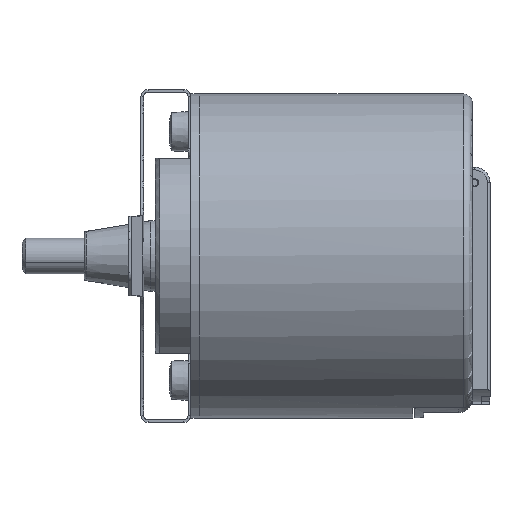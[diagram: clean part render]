
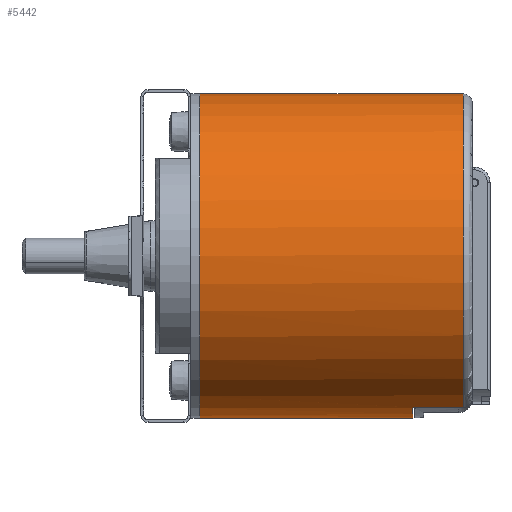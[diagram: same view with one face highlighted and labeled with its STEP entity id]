
A CAD part, front view. The second image highlights one B-rep face of the part: STEP entity #5442.
In plain terms, the highlighted cylindrical face has radius 18.25 mm (diameter 36.5 mm), a partial arc.
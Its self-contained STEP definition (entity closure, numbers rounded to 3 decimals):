
#156 = DIRECTION ( 'NONE',  ( 0., 0., 1. ) ) ;
#360 = ORIENTED_EDGE ( 'NONE', *, *, #13183, .T. ) ;
#394 = CARTESIAN_POINT ( 'NONE',  ( 5., 0., 18.25 ) ) ;
#913 = LINE ( 'NONE', #16848, #4344 ) ;
#1022 = CARTESIAN_POINT ( 'NONE',  ( 5., 0., -18.25 ) ) ;
#1177 = CIRCLE ( 'NONE', #16262, 18.25 ) ;
#1591 = CARTESIAN_POINT ( 'NONE',  ( 29.139, -6.465, -17.067 ) ) ;
#2620 = VERTEX_POINT ( 'NONE', #14252 ) ;
#3161 = EDGE_LOOP ( 'NONE', ( #11395, #16537, #360, #3196, #5351, #3200, #13406 ) ) ;
#3196 = ORIENTED_EDGE ( 'NONE', *, *, #8750, .F. ) ;
#3200 = ORIENTED_EDGE ( 'NONE', *, *, #10170, .T. ) ;
#3255 = AXIS2_PLACEMENT_3D ( 'NONE', #17208, #8616, #15842 ) ;
#3583 = CARTESIAN_POINT ( 'NONE',  ( 34.7, -6.5, -17.053 ) ) ;
#4038 = DIRECTION ( 'NONE',  ( -1., 0., 0. ) ) ;
#4344 = VECTOR ( 'NONE', #4038, 1000. ) ;
#4386 = LINE ( 'NONE', #6911, #18483 ) ;
#4609 = EDGE_CURVE ( 'NONE', #12246, #15680, #7430, .T. ) ;
#4826 = LINE ( 'NONE', #9919, #5689 ) ;
#5351 = ORIENTED_EDGE ( 'NONE', *, *, #8922, .T. ) ;
#5442 = ADVANCED_FACE ( 'NONE', ( #9471 ), #14589, .T. ) ;
#5689 = VECTOR ( 'NONE', #11376, 1000. ) ;
#5701 = AXIS2_PLACEMENT_3D ( 'NONE', #10483, #10419, #8997 ) ;
#6327 = CARTESIAN_POINT ( 'NONE',  ( 29.3, -6.5, -17.053 ) ) ;
#6545 = VERTEX_POINT ( 'NONE', #394 ) ;
#6750 = EDGE_CURVE ( 'NONE', #15680, #9646, #913, .T. ) ;
#6911 = CARTESIAN_POINT ( 'NONE',  ( 5., 0., 18.25 ) ) ;
#7430 = CIRCLE ( 'NONE', #7488, 18.25 ) ;
#7488 = AXIS2_PLACEMENT_3D ( 'NONE', #8795, #18577, #156 ) ;
#8474 = CARTESIAN_POINT ( 'NONE',  ( 34.7, 0., 18.25 ) ) ;
#8616 = DIRECTION ( 'NONE',  ( -1., 0., 0. ) ) ;
#8750 = EDGE_CURVE ( 'NONE', #11994, #2620, #4826, .T. ) ;
#8795 = CARTESIAN_POINT ( 'NONE',  ( 29., 0., 0. ) ) ;
#8922 = EDGE_CURVE ( 'NONE', #11994, #11175, #1177, .T. ) ;
#8988 = CARTESIAN_POINT ( 'NONE',  ( 34.7, 0., 0. ) ) ;
#8997 = DIRECTION ( 'NONE',  ( 0., 0., 1. ) ) ;
#9471 = FACE_OUTER_BOUND ( 'NONE', #3161, .T. ) ;
#9646 = VERTEX_POINT ( 'NONE', #1022 ) ;
#9919 = CARTESIAN_POINT ( 'NONE',  ( 5., -6.5, -17.053 ) ) ;
#10170 = EDGE_CURVE ( 'NONE', #11175, #6545, #4386, .T. ) ;
#10419 = DIRECTION ( 'NONE',  ( -1., 0., 0. ) ) ;
#10483 = CARTESIAN_POINT ( 'NONE',  ( 5., 0., 0. ) ) ;
#11175 = VERTEX_POINT ( 'NONE', #8474 ) ;
#11376 = DIRECTION ( 'NONE',  ( -1., 0., 0. ) ) ;
#11395 = ORIENTED_EDGE ( 'NONE', *, *, #6750, .F. ) ;
#11994 = VERTEX_POINT ( 'NONE', #3583 ) ;
#12246 = VERTEX_POINT ( 'NONE', #13294 ) ;
#12759 = CIRCLE ( 'NONE', #5701, 18.25 ) ;
#13183 = EDGE_CURVE ( 'NONE', #12246, #2620, #14042, .T. ) ;
#13294 = CARTESIAN_POINT ( 'NONE',  ( 29., -6.2, -17.165 ) ) ;
#13406 = ORIENTED_EDGE ( 'NONE', *, *, #18382, .F. ) ;
#14042 = B_SPLINE_CURVE_WITH_KNOTS ( 'NONE', 3,
 ( #15171, #14984, #14681, #1591, #17077, #6327 ),
 .UNSPECIFIED., .F., .F.,
 ( 4, 2, 4 ),
 ( 0., 0., 0. ),
 .UNSPECIFIED. ) ;
#14252 = CARTESIAN_POINT ( 'NONE',  ( 29.3, -6.5, -17.053 ) ) ;
#14589 = CYLINDRICAL_SURFACE ( 'NONE', #3255, 18.25 ) ;
#14617 = DIRECTION ( 'NONE',  ( -1., 0., 0. ) ) ;
#14681 = CARTESIAN_POINT ( 'NONE',  ( 29.03, -6.352, -17.109 ) ) ;
#14824 = DIRECTION ( 'NONE',  ( 0., 0., 1. ) ) ;
#14984 = CARTESIAN_POINT ( 'NONE',  ( 29., -6.277, -17.137 ) ) ;
#15171 = CARTESIAN_POINT ( 'NONE',  ( 29., -6.2, -17.165 ) ) ;
#15680 = VERTEX_POINT ( 'NONE', #18356 ) ;
#15842 = DIRECTION ( 'NONE',  ( 0., 0., 1. ) ) ;
#16262 = AXIS2_PLACEMENT_3D ( 'NONE', #8988, #14617, #14824 ) ;
#16537 = ORIENTED_EDGE ( 'NONE', *, *, #4609, .F. ) ;
#16848 = CARTESIAN_POINT ( 'NONE',  ( 5., 0., -18.25 ) ) ;
#17077 = CARTESIAN_POINT ( 'NONE',  ( 29.218, -6.5, -17.053 ) ) ;
#17208 = CARTESIAN_POINT ( 'NONE',  ( 5., 0., 0. ) ) ;
#18356 = CARTESIAN_POINT ( 'NONE',  ( 29., 0., -18.25 ) ) ;
#18382 = EDGE_CURVE ( 'NONE', #9646, #6545, #12759, .T. ) ;
#18483 = VECTOR ( 'NONE', #18496, 1000. ) ;
#18496 = DIRECTION ( 'NONE',  ( -1., 0., 0. ) ) ;
#18577 = DIRECTION ( 'NONE',  ( 1., 0., 0. ) ) ;
